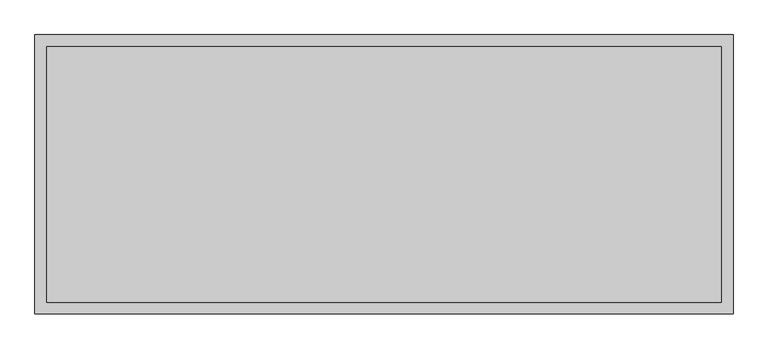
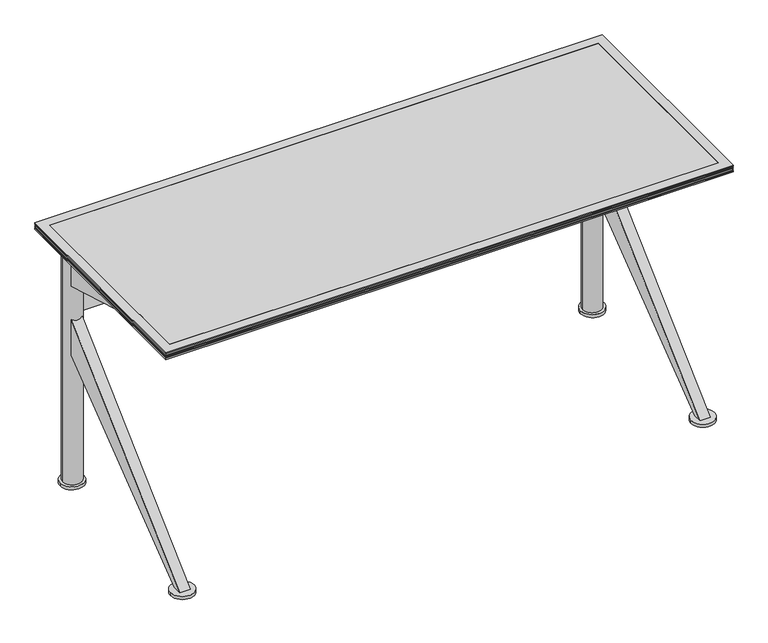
"""IFC4 building model written with IfcOpenShell, lengths in millimetres: furniture geometry, Coalesse_AM_Table_Conference_Ballet_Rectangular_KBase : Non Folding - 60L x 24W."""

from ifc_helpers import new_model, si_unit, point, frame, frame_2d, origin, origin_with_axes, place, context, project, spatial, polyline, circle_curve, trimmed, segment, composite_curve, outline, extrude, faceted_brep, source, transform, mapped, element, save
from ifc_brep_helpers import plane_surface, cylinder_surface, advanced_brep


def furniture_cbac11a1(model_context):
    return source(origin(), model_context, "Body", "SolidModel", [
        extrude(outline(composite_curve([segment(trimmed(circle_curve(frame_2d((-699.4092495, -273.05)), 25.4), [point((-724.8092495, -273.05))], [point((-674.0092495, -273.05))], False, "CARTESIAN"), True, "CONTINUOUS"), segment(trimmed(circle_curve(frame_2d((-699.4092495, -273.05)), 25.4), [point((-674.0092495, -273.05))], [point((-724.8092495, -273.05))], False, "CARTESIAN"), True, "CONTINUOUS")], self_intersect=False)), origin_with_axes(), (0.0, 0.0, 1.0), 4.2936144),
        extrude(outline(composite_curve([segment(trimmed(circle_curve(frame_2d((698.6624629, -273.05)), 25.4), [point((673.2624629, -273.05))], [point((724.0624629, -273.05))], False, "CARTESIAN"), True, "CONTINUOUS"), segment(trimmed(circle_curve(frame_2d((698.6624629, -273.05)), 25.4), [point((724.0624629, -273.05))], [point((673.2624629, -273.05))], False, "CARTESIAN"), True, "CONTINUOUS")], self_intersect=False)), origin_with_axes(), (0.0, 0.0, 1.0), 4.2936144),
        extrude(outline(composite_curve([segment(trimmed(circle_curve(frame_2d((698.6154995, 240.615286)), 25.4), [point((724.0154995, 240.615286))], [point((673.2154995, 240.615286))], False, "CARTESIAN"), True, "CONTINUOUS"), segment(trimmed(circle_curve(frame_2d((698.6154995, 240.615286)), 25.4), [point((673.2154995, 240.615286))], [point((724.0154995, 240.615286))], False, "CARTESIAN"), True, "CONTINUOUS")], self_intersect=False)), origin_with_axes(), (0.0, 0.0, 1.0), 4.2936144),
        extrude(outline(composite_curve([segment(trimmed(circle_curve(frame_2d((-699.4562129, 240.615286)), 25.4), [point((-674.0562129, 240.615286))], [point((-724.8562129, 240.615286))], False, "CARTESIAN"), True, "CONTINUOUS"), segment(trimmed(circle_curve(frame_2d((-699.4562129, 240.615286)), 25.4), [point((-724.8562129, 240.615286))], [point((-674.0562129, 240.615286))], False, "CARTESIAN"), True, "CONTINUOUS")], self_intersect=False)), origin_with_axes(), (0.0, 0.0, 1.0), 4.2936144),
        extrude(outline(composite_curve([segment(trimmed(circle_curve(frame_2d((698.6154995, 240.615286)), 31.75), [point((730.3654995, 240.615286))], [point((666.8654995, 240.615286))], False, "CARTESIAN"), True, "CONTINUOUS"), segment(trimmed(circle_curve(frame_2d((698.6154995, 240.615286)), 31.75), [point((666.8654995, 240.615286))], [point((730.3654995, 240.615286))], False, "CARTESIAN"), True, "CONTINUOUS")], self_intersect=False)), frame((0.0, 0.0, 4.2936144), z_axis=(0.0, 0.0, 1.0), x_axis=(1.0, 0.0, 0.0)), (0.0, 0.0, 1.0), 8.4063856),
        extrude(outline(composite_curve([segment(trimmed(circle_curve(frame_2d((-699.4562129, 240.615286)), 31.75), [point((-667.7062129, 240.615286))], [point((-731.2062129, 240.615286))], False, "CARTESIAN"), True, "CONTINUOUS"), segment(trimmed(circle_curve(frame_2d((-699.4562129, 240.615286)), 31.75), [point((-731.2062129, 240.615286))], [point((-667.7062129, 240.615286))], False, "CARTESIAN"), True, "CONTINUOUS")], self_intersect=False)), frame((0.0, 0.0, 4.2936144), z_axis=(0.0, 0.0, 1.0), x_axis=(1.0, 0.0, 0.0)), (0.0, 0.0, 1.0), 8.4063856),
        extrude(outline(polyline([(220.2656271, 577.7388634), (-193.674901, 698.5000242), (-161.924901, 698.5000242), (220.2656271, 641.3500242), (220.2656271, 577.7388634)])), frame((-712.8007845, 0.0, 0.0), z_axis=(1.0, 0.0, 0.0), x_axis=(0.0, 1.0, 0.0)), (0.0, 0.0, 1.0), 28.5877899),
        extrude(outline(polyline([(220.2656271, 381.0), (-261.9375951, 12.7), (-284.1624013, 12.7), (220.2656271, 482.7111245), (220.2656271, 381.0)])), frame((-712.8007845, 0.0, 0.0), z_axis=(1.0, 0.0, 0.0), x_axis=(0.0, 1.0, 0.0)), (0.0, 0.0, 1.0), 28.5877899),
        extrude(outline(polyline([(220.2656271, 577.7388634), (-193.674901, 698.5000242), (-161.924901, 698.5000242), (220.2656271, 641.3500242), (220.2656271, 577.7388634)])), frame((684.2121992, 0.0, 0.0), z_axis=(1.0, 0.0, 0.0), x_axis=(0.0, 1.0, 0.0)), (0.0, 0.0, 1.0), 28.575),
        extrude(outline(polyline([(220.2656271, 381.0), (-261.9375951, 12.7), (-284.1624013, 12.7), (220.2656271, 482.7111245), (220.2656271, 381.0)])), frame((684.2121992, 0.0, 0.0), z_axis=(1.0, 0.0, 0.0), x_axis=(0.0, 1.0, 0.0)), (0.0, 0.0, 1.0), 28.575),
        advanced_brep(
        [(676.5033169, 228.6000021, 568.3250121), (-676.5033169, 228.6000021, 568.3250121), (-676.5033169, 228.6000021, 492.1250121), (676.5033169, 228.6000021, 492.1250121), (-673.1003634, 241.3, 492.1250121), (-676.5032635, 253.9999052, 492.1250121), (676.5032635, 253.9999052, 492.1250121), (673.1003634, 241.3, 492.1250121), (-676.5032635, 253.9999052, 568.3250121), (676.5032635, 253.9999052, 568.3250121), (673.1003634, 241.3, 568.3250121), (-673.1003634, 241.3, 568.3250121), (-723.9003633, 241.3, 698.5000242), (-673.1003634, 241.3, 698.5000242), (673.1003634, 241.3, 698.5000242), (723.9003633, 241.3, 698.5000242), (-723.9003633, 241.3, 12.7), (-673.1003634, 241.3, 12.7), (673.1003634, 241.3, 12.7), (723.9003633, 241.3, 12.7)],
        [
            (0, 1),
            (1, 2),
            (2, 3),
            (3, 0),
            (2, 4, circle_curve(frame((-698.5003633, 241.3, 492.1250121), z_axis=(0.0, 0.0, 1.0), x_axis=(1.0, 0.0, 0.0)), 25.3999999)),
            (4, 5, circle_curve(frame((-698.5003633, 241.3, 492.1250121), z_axis=(0.0, 0.0, 1.0), x_axis=(1.0, 0.0, 0.0)), 25.3999999)),
            (5, 6),
            (6, 7, circle_curve(frame((698.5003633, 241.3, 492.1250121), z_axis=(0.0, 0.0, 1.0), x_axis=(1.0, 0.0, 0.0)), 25.3999999)),
            (7, 3, circle_curve(frame((698.5003633, 241.3, 492.1250121), z_axis=(0.0, 0.0, 1.0), x_axis=(1.0, 0.0, 0.0)), 25.3999999)),
            (5, 8),
            (8, 9),
            (9, 6),
            (0, 10, circle_curve(frame((698.5003633, 241.3, 568.3250121), z_axis=(0.0, 0.0, -1.0), x_axis=(1.0, 0.0, 0.0)), 25.3999999)),
            (10, 9, circle_curve(frame((698.5003633, 241.3, 568.3250121), z_axis=(0.0, 0.0, -1.0), x_axis=(1.0, 0.0, 0.0)), 25.3999999)),
            (8, 11, circle_curve(frame((-698.5003633, 241.3, 568.3250121), z_axis=(0.0, 0.0, -1.0), x_axis=(1.0, 0.0, 0.0)), 25.3999999)),
            (11, 1, circle_curve(frame((-698.5003633, 241.3, 568.3250121), z_axis=(0.0, 0.0, -1.0), x_axis=(1.0, 0.0, 0.0)), 25.3999999)),
            (12, 13, circle_curve(frame((-698.5003633, 241.3, 698.5000242), z_axis=(0.0, 0.0, 1.0), x_axis=(1.0, 0.0, 0.0)), 25.3999999)),
            (13, 12, circle_curve(frame((-698.5003633, 241.3, 698.5000242), z_axis=(0.0, 0.0, 1.0), x_axis=(1.0, 0.0, 0.0)), 25.3999999)),
            (14, 15, circle_curve(frame((698.5003633, 241.3, 698.5000242), z_axis=(0.0, 0.0, 1.0), x_axis=(1.0, 0.0, 0.0)), 25.3999999)),
            (15, 14, circle_curve(frame((698.5003633, 241.3, 698.5000242), z_axis=(0.0, 0.0, 1.0), x_axis=(1.0, 0.0, 0.0)), 25.3999999)),
            (16, 17, circle_curve(frame((-698.5003633, 241.3, 12.7), z_axis=(0.0, 0.0, -1.0), x_axis=(1.0, 0.0, 0.0)), 25.3999999)),
            (17, 16, circle_curve(frame((-698.5003633, 241.3, 12.7), z_axis=(0.0, 0.0, -1.0), x_axis=(1.0, 0.0, 0.0)), 25.3999999)),
            (18, 19, circle_curve(frame((698.5003633, 241.3, 12.7), z_axis=(0.0, 0.0, -1.0), x_axis=(1.0, 0.0, 0.0)), 25.3999999)),
            (19, 18, circle_curve(frame((698.5003633, 241.3, 12.7), z_axis=(0.0, 0.0, -1.0), x_axis=(1.0, 0.0, 0.0)), 25.3999999)),
            (12, 16),
            (17, 4),
            (11, 13),
            (14, 10),
            (7, 18),
            (19, 15),
        ],
        [
            plane_surface(frame((684.2121992, 228.6000021, 568.3250121), z_axis=(0.0, -1.0, 0.0), x_axis=(-1.0, 0.0, 0.0))),
            plane_surface(frame((684.2121992, 228.6000021, 492.1250121), z_axis=(0.0, 0.0, -1.0), x_axis=(-1.0, 0.0, 0.0))),
            plane_surface(frame((684.2121992, 253.9999052, 492.1250121), z_axis=(0.0, 1.0, 0.0), x_axis=(-1.0, 0.0, 0.0))),
            plane_surface(frame((684.2121992, 253.9999052, 568.3250121), z_axis=(0.0, 0.0, 1.0), x_axis=(-1.0, 0.0, 0.0))),
            plane_surface(frame((-673.1003634, 241.3, 698.5000242), z_axis=(0.0, 0.0, 1.0), x_axis=(0.0, 1.0, 0.0))),
            plane_surface(frame((-673.1003634, 241.3, 12.7), z_axis=(0.0, 0.0, -1.0), x_axis=(0.0, -1.0, 0.0))),
            cylinder_surface(frame((-698.5003633, 241.3, 12.7), z_axis=(0.0, 0.0, 1.0), x_axis=(1.0, 0.0, 0.0)), 25.3999999),
            cylinder_surface(frame((698.5003633, 241.3, 0.0), z_axis=(0.0, 0.0, 1.0), x_axis=(1.0, 0.0, 0.0)), 25.3999999),
        ],
        [
            (0, [[1, 2, 3, 4]]),
            (1, [[-3, 5, 6, 7, 8, 9]]),
            (2, [[-7, 10, 11, 12]]),
            (3, [[-1, 13, 14, -11, 15, 16]]),
            (4, [[17, 18]]),
            (4, [[19, 20]]),
            (5, [[21, 22]]),
            (5, [[23, 24]]),
            (6, [[-17, 25, -22, 26, -5, -2, -16, 27]]),
            (6, [[-18, -27, -15, -10, -6, -26, -21, -25]]),
            (7, [[-19, 28, -13, -4, -9, 29, -24, 30]]),
            (7, [[-20, -30, -23, -29, -8, -12, -14, -28]]),
        ],
    ),
        extrude(outline(composite_curve([segment(trimmed(circle_curve(frame_2d((-699.4092495, -273.05)), 31.75), [point((-731.1592495, -273.05))], [point((-667.6592495, -273.05))], False, "CARTESIAN"), True, "CONTINUOUS"), segment(trimmed(circle_curve(frame_2d((-699.4092495, -273.05)), 31.75), [point((-667.6592495, -273.05))], [point((-731.1592495, -273.05))], False, "CARTESIAN"), True, "CONTINUOUS")], self_intersect=False)), frame((0.0, 0.0, 4.2936144), z_axis=(0.0, 0.0, 1.0), x_axis=(1.0, 0.0, 0.0)), (0.0, 0.0, 1.0), 8.4063856),
        extrude(outline(composite_curve([segment(trimmed(circle_curve(frame_2d((698.6624629, -273.05)), 31.75), [point((666.9124629, -273.05))], [point((730.4124629, -273.05))], False, "CARTESIAN"), True, "CONTINUOUS"), segment(trimmed(circle_curve(frame_2d((698.6624629, -273.05)), 31.75), [point((730.4124629, -273.05))], [point((666.9124629, -273.05))], False, "CARTESIAN"), True, "CONTINUOUS")], self_intersect=False)), frame((0.0, 0.0, 4.2936144), z_axis=(0.0, 0.0, 1.0), x_axis=(1.0, 0.0, 0.0)), (0.0, 0.0, 1.0), 8.4063856),
        faceted_brep([(-762.0003633, 304.8, 704.85), (-736.6003876, 279.4000242, 698.5000242), (-736.6003876, -279.3999516, 698.5000242), (-762.0003633, -304.7999273, 704.85), (-762.0003633, 304.8, 708.0250242), (-762.0003633, -304.7999273, 708.0250242), (-758.8253755, 301.6250121, 709.6125), (-758.8253755, -301.6249394, 709.6125), (-762.0003633, 304.8, 711.1999758), (-762.0003633, -304.7999273, 711.1999758), (-758.8253755, 301.6250121, 712.7875242), (-758.8253755, -301.6249394, 712.7875242), (-762.0003633, 304.8, 714.375), (-762.0003633, -304.7999273, 714.375), (-758.8253755, 301.6250121, 715.9624758), (-758.8253755, -301.6249394, 715.9624758), (-762.0003633, 304.8, 717.5500242), (-762.0003633, -304.7999273, 717.5500242), (-758.8253755, 301.6250121, 719.1375), (-758.8253755, -301.6249394, 719.1375), (-762.0003633, 304.8, 720.7249758), (-762.0003633, -304.7999273, 720.7249758), (-762.0003633, 304.8, 723.9), (-762.0003633, -304.7999273, 723.9), (-736.6003876, 279.4000242, 723.9), (-736.6003876, -279.3999516, 723.9), (736.5998062, -279.3999516, 698.5000242), (761.999782, -304.7999273, 704.85), (761.999782, -304.7999273, 708.0250242), (758.8247941, -301.6249394, 709.6125), (761.999782, -304.7999273, 711.1999758), (758.8247941, -301.6249394, 712.7875242), (761.999782, -304.7999273, 714.375), (758.8247941, -301.6249394, 715.9624758), (761.999782, -304.7999273, 717.5500242), (758.8247941, -301.6249394, 719.1375), (761.999782, -304.7999273, 720.7249758), (761.999782, -304.7999273, 723.9), (736.5998062, -279.3999516, 723.9), (736.5998062, 279.4000242, 698.5000242), (761.999782, 304.8, 704.85), (761.999782, 304.8, 708.0250242), (758.8247941, 301.6250121, 709.6125), (761.999782, 304.8, 711.1999758), (758.8247941, 301.6250121, 712.7875242), (761.999782, 304.8, 714.375), (758.8247941, 301.6250121, 715.9624758), (761.999782, 304.8, 717.5500242), (758.8247941, 301.6250121, 719.1375), (761.999782, 304.8, 720.7249758), (761.999782, 304.8, 723.9), (736.5998062, 279.4000242, 723.9)], [[[0, 1, 2, 3]], [[4, 0, 3, 5]], [[6, 4, 5, 7]], [[8, 6, 7, 9]], [[10, 8, 9, 11]], [[12, 10, 11, 13]], [[14, 12, 13, 15]], [[16, 14, 15, 17]], [[18, 16, 17, 19]], [[20, 18, 19, 21]], [[22, 20, 21, 23]], [[1, 24, 25, 2]], [[3, 2, 26, 27]], [[5, 3, 27, 28]], [[7, 5, 28, 29]], [[9, 7, 29, 30]], [[11, 9, 30, 31]], [[13, 11, 31, 32]], [[15, 13, 32, 33]], [[17, 15, 33, 34]], [[19, 17, 34, 35]], [[21, 19, 35, 36]], [[23, 21, 36, 37]], [[2, 25, 38, 26]], [[27, 26, 39, 40]], [[28, 27, 40, 41]], [[29, 28, 41, 42]], [[30, 29, 42, 43]], [[31, 30, 43, 44]], [[32, 31, 44, 45]], [[33, 32, 45, 46]], [[34, 33, 46, 47]], [[35, 34, 47, 48]], [[36, 35, 48, 49]], [[37, 36, 49, 50]], [[26, 38, 51, 39]], [[40, 39, 1, 0]], [[41, 40, 0, 4]], [[42, 41, 4, 6]], [[43, 42, 6, 8]], [[44, 43, 8, 10]], [[45, 44, 10, 12]], [[46, 45, 12, 14]], [[47, 46, 14, 16]], [[48, 47, 16, 18]], [[49, 48, 18, 20]], [[50, 49, 20, 22]], [[23, 37, 50, 22], [24, 51, 38, 25]], [[39, 51, 24, 1]]]),
        extrude(outline(polyline([(736.5998062, 279.4000242), (736.5998062, -279.3999516), (-736.6003876, -279.3999516), (-736.6003876, 279.4000242), (736.5998062, 279.4000242)])), frame((0.0, 0.0, 704.85), z_axis=(0.0, 0.0, 1.0), x_axis=(1.0, 0.0, 0.0)), (0.0, 0.0, 1.0), 19.05),
    ])


if __name__ == "__main__":
    model = new_model("IFC4")
    model_context = context("Model", 3, world=origin())
    ifc_project = project(units=[si_unit("LENGTHUNIT", "METRE", prefix="MILLI")], contexts=[model_context])
    site = spatial("IfcSite", under=ifc_project)
    building = spatial("IfcBuilding", under=site)
    placement = place(None, origin())
    furniture_shape = furniture_cbac11a1(model_context)
    element("IfcFurniture", 1, ObjectType="Coalesse_AM_Table_Conference_Ballet_Rectangular_KBase : Non Folding - 60L x 24W", at=placement, inside=building, context=model_context, shape_type="MappedRepresentation", body=[
        mapped(furniture_shape, transform((0.0, 0.0, 0.0), x_axis=(1.0, 0.0, 0.0), y_axis=(0.0, 1.0, 0.0), z_axis=(0.0, 0.0, 1.0))),
    ])
    save(model, "model.ifc")
